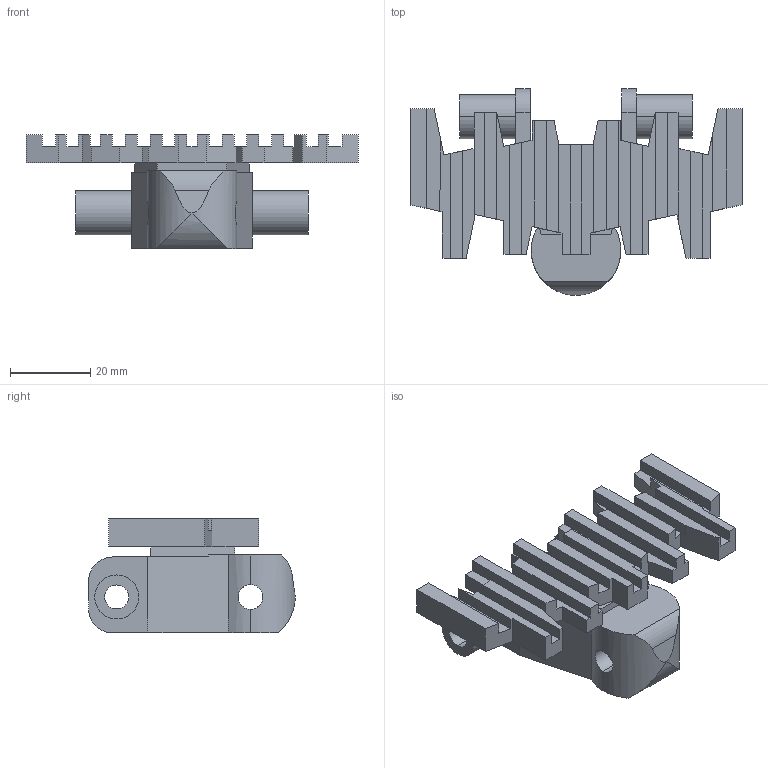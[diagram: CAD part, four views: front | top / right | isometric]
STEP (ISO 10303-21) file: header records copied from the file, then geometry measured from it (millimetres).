
FILE_DESCRIPTION (( 'STEP AP214' ), '1' );
FILE_NAME ('FMRB 5A.step', '2017-04-04T13:34:57', ( '' ), ( '' ), 'SwSTEP 2.0', 'SolidWorks 2015', '' );
FILE_SCHEMA (( 'AUTOMOTIVE_DESIGN' ));
Length unit declared in the file: millimetre
Products named in the file (1): FMRB 5A
Bounding box: 83 x 51.65 x 28.5 mm (x, y, z)
Volume: 28663.3 mm3; surface area: 15151.4 mm2
Topology: 1 solids, 1 shells, 149 faces, 429 edges, 283 vertices
Faces by surface type: plane 130, cylinder 19
Entity records: 4985 total; most frequent: CARTESIAN_POINT 1024, ORIENTED_EDGE 858, DIRECTION 749, EDGE_CURVE 429, LINE 389, VECTOR 389, VERTEX_POINT 283, AXIS2_PLACEMENT_3D 180
